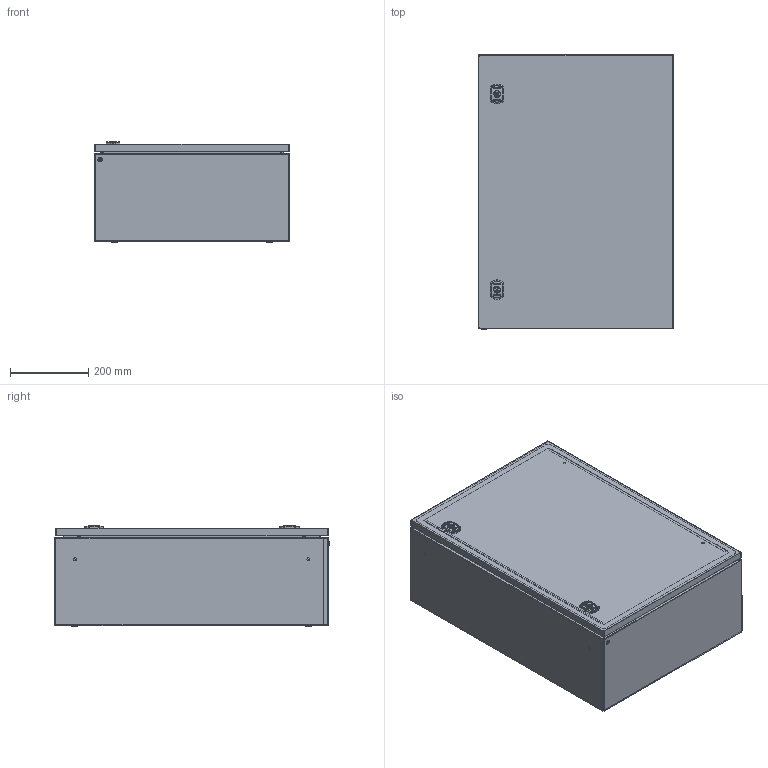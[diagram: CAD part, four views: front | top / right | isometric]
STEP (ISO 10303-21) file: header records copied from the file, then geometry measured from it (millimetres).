
FILE_DESCRIPTION(('Open CASCADE Model'),'2;1');
FILE_NAME('Open CASCADE Shape Model','2025-01-21T00:08:11',('Author'),( 'Open CASCADE'),'Open CASCADE STEP processor 7.8','Open CASCADE 7.8' ,'Unknown');
FILE_SCHEMA(('AUTOMOTIVE_DESIGN { 1 0 10303 214 1 1 1 1 }'));
Length unit declared in the file: millimetre
Products named in the file (29): Compound1; Compound2; Compound3; Compound4; Solid1; Solid2; Solid3; Solid4; Compound5; Solid5; Solid6; Solid7; Solid8; Compound6; Compound7; Solid9; Solid10; Solid11; Solid12; Compound8; Solid13; Solid14; Solid15; Solid16; Solid17; Solid18; Solid19; Solid20; Solid21
Assembly tree (51 placements, depth 5):
  Compound1
    Compound2
      Compound3
        Compound4
          Solid1
          Solid2
          Solid3  x4
          Solid4  x4
        Compound5  x2
          Solid5
        Solid6  x2
        Solid7  x2
        Solid8  x2
      Compound6
        Compound7
          Solid9
          Solid10  x2
          Solid11  x2
        Solid12
        Compound8  x2
          Solid13
          Solid14
          Solid15
          Solid16
          Solid17
      Solid18  x4
      Solid19
      Solid20  x4
    Solid21  x5
Bounding box: 500 x 701 x 258.01 mm (x, y, z)
Volume: 2654584.8 mm3; surface area: 3630042.5 mm2
Topology: 48 solids, 48 shells, 4406 faces, 11232 edges, 7126 vertices
Faces by surface type: plane 2147, cylinder 1246, bspline 511, torus 274, cone 164, sphere 56, revolution 8
Full cylindrical faces by diameter (mm): 4 x44, 5.5 x4, 8 x5
Entity records: 156595 total; most frequent: CARTESIAN_POINT 87038, ORIENTED_EDGE 14796, DIRECTION 13469, EDGE_CURVE 7398, LINE 4835, VECTOR 4835, VERTEX_POINT 4744, AXIS2_PLACEMENT_3D 4315
